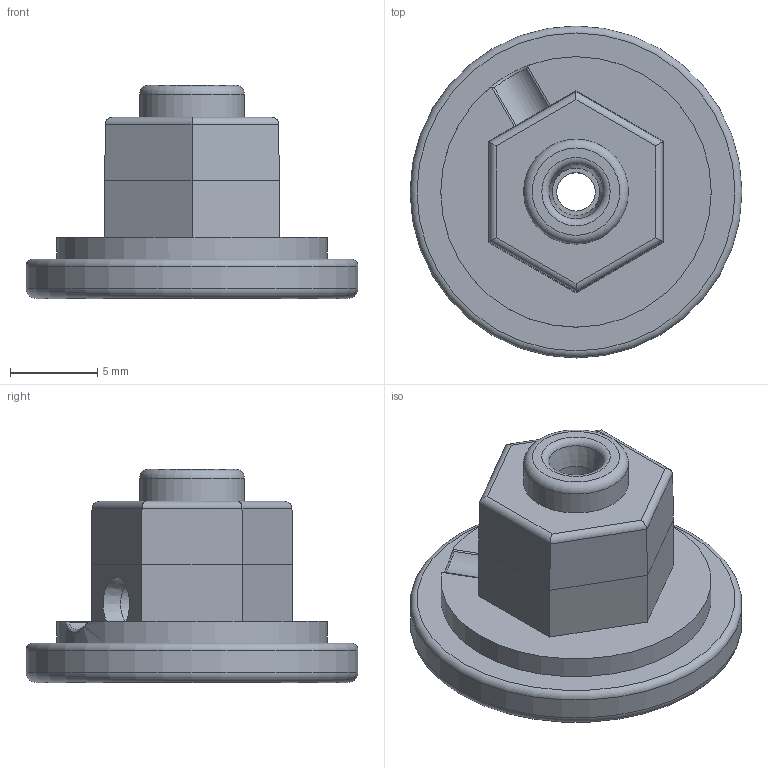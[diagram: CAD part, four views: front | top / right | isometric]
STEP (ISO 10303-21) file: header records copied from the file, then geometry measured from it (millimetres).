
FILE_DESCRIPTION(/* description */ (''),/* implementation_level */ '2;1');
FILE_NAME(/* name */ 'G:\~~Autodesk Inventor File Backup~~\Wolverine Parts by Kamel Ikhlef\My Inventor Drawn Telecine Capstan Parts\Standard 8 Capstan Sprocket Assy\STEP Files\Back_Pulley_Capstan_N8_Hexagonal_NO Brass Inserts_Tapered_Hex_1.stp',/* time_stamp */ '2020-02-24T22:51:09+10:00',/* author */ ('bruce'),/* organization */ (''),/* preprocessor_version */ 'ST-DEVELOPER v17.2',/* originating_system */ 'Autodesk Inventor 2019',/* authorisation */ '');
FILE_SCHEMA (('AUTOMOTIVE_DESIGN { 1 0 10303 214 3 1 1 }'));
Length unit declared in the file: millimetre
Products named in the file (1): Back_Pulley_Capstan_N8_Hexagonal_NO Brass Inserts_Tapered_Hex_1
Bounding box: 19 x 19 x 12.2 mm (x, y, z)
Volume: 1426.2 mm3; surface area: 1102.6 mm2
Topology: 1 solids, 1 shells, 43 faces, 104 edges, 65 vertices
Faces by surface type: plane 20, cylinder 15, torus 5, cone 2, bspline 1
Full cylindrical faces by diameter (mm): 2.2 x1, 2.5 x1, 2.725 x1, 6 x1, 15.48 x1, 19 x1
Entity records: 1419 total; most frequent: CARTESIAN_POINT 343, DIRECTION 227, ORIENTED_EDGE 208, EDGE_CURVE 104, AXIS2_PLACEMENT_3D 88, VERTEX_POINT 65, LINE 51, VECTOR 51
